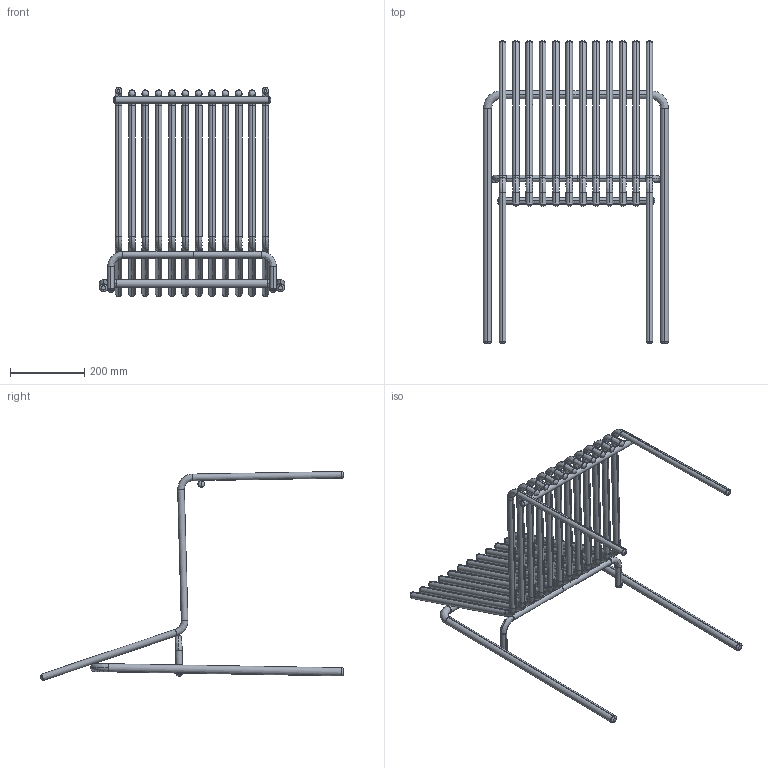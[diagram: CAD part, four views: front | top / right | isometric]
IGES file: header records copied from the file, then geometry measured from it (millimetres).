
Start section: 3D InterOp IGES (v. 2021 1.0.1), Spatial Corp. Copyright (c) 1999-2020.
Global section: file name: 20211108_Sedia AMALFI_No Braccioli.igs; native system: Spatial Corp.; preprocessor: 3D InterOp GENERIC/IGES 3.0; author: Noname; organization: Noname; date: 20220316.134404; units: millimetre
Bounding box: 500 x 818.29 x 564.18 mm (x, y, z)
Surface area: 1509537.7 mm2 (no closed solid volume)
Topology: 0 solids, 0 shells, 514 faces, 2004 edges, 1996 vertices
Faces by surface type: revolution 450, extrusion 64
